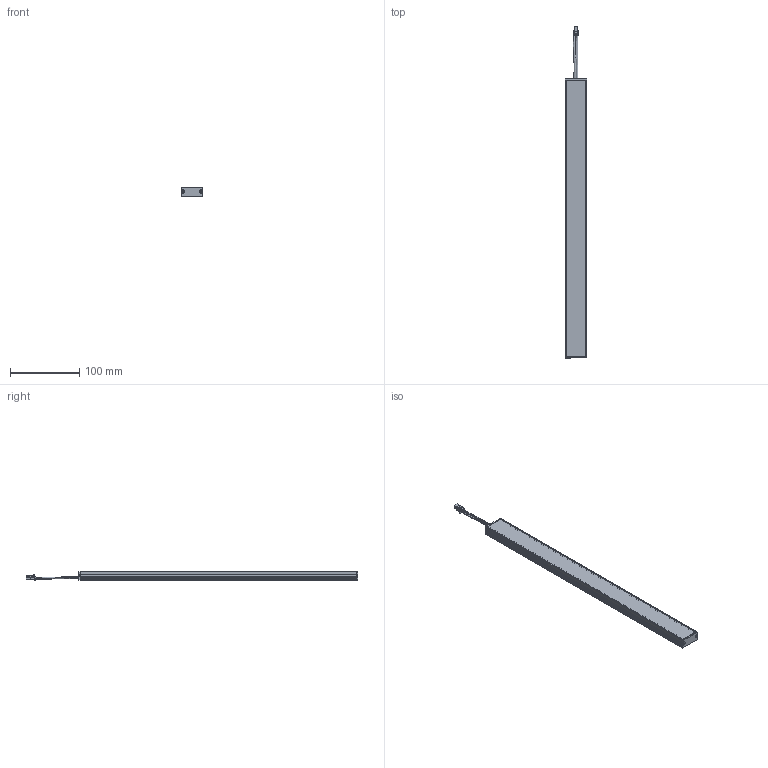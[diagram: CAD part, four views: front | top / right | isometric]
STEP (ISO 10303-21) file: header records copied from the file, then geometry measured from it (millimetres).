
FILE_DESCRIPTION (( 'STEP AP214' ), '1' );
FILE_NAME ('RomaCompleto.STEP', '2022-02-18T10:39:36', ( '' ), ( '' ), 'SwSTEP 2.0', 'SolidWorks 2021', '' );
FILE_SCHEMA (( 'AUTOMOTIVE_DESIGN' ));
Length unit declared in the file: millimetre
Products named in the file (1): RomaCompleto
Bounding box: 30.82 x 480.51 x 13 mm (x, y, z)
Surface area: 85796.4 mm2 (no closed solid volume)
Topology: 0 solids, 9 shells, 407 faces, 1103 edges, 704 vertices
Faces by surface type: plane 245, cylinder 98, cone 40, bspline 17, torus 4, sphere 3
Entity records: 21886 total; most frequent: CARTESIAN_POINT 7179, ORIENTED_EDGE 2190, DIRECTION 2019, EDGE_CURVE 1095, VECTOR 773, LINE 773, VERTEX_POINT 704, AXIS2_PLACEMENT_3D 623
